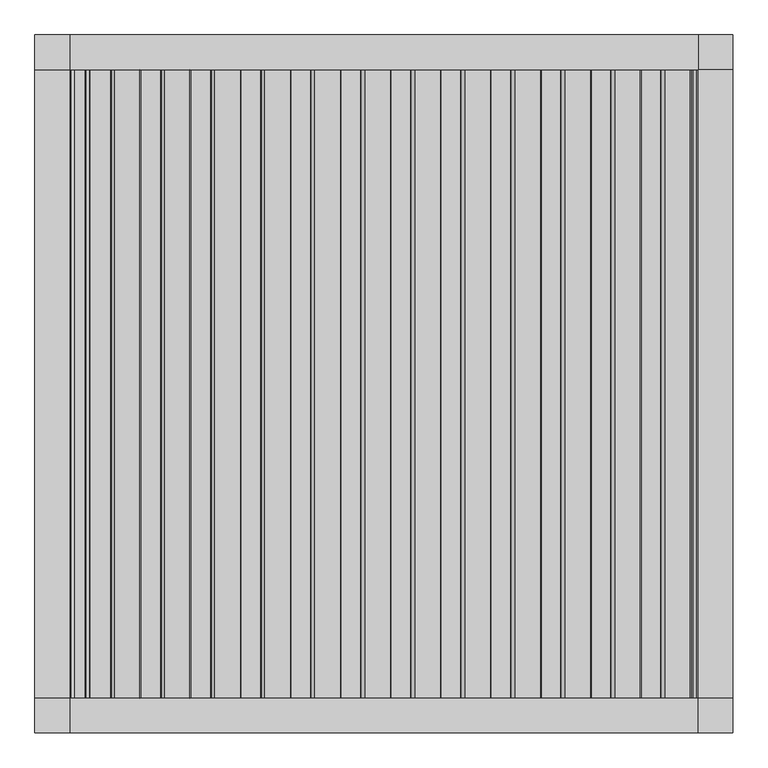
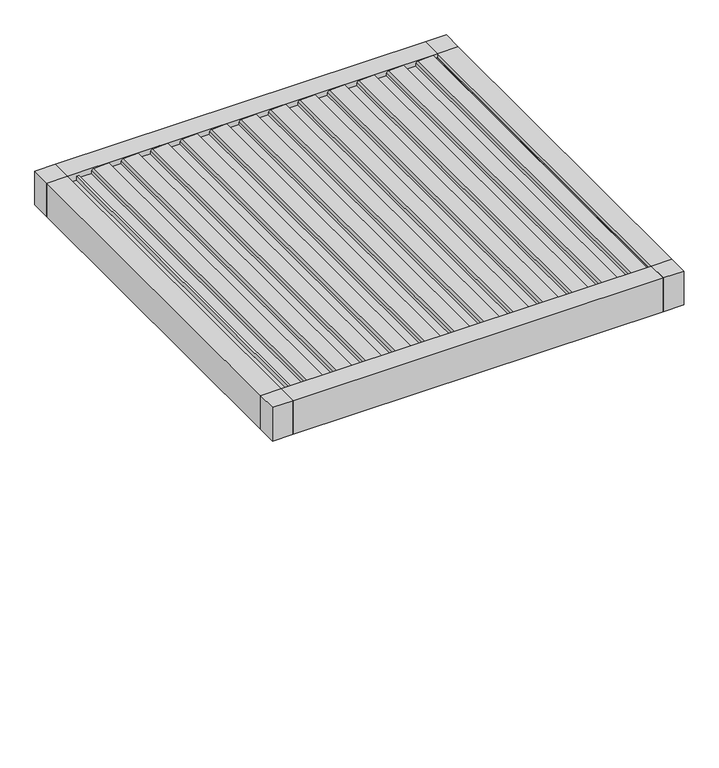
"""IFC4 building model written with IfcOpenShell, lengths in millimetres: proxy geometry, Renson_Camargue_Facade-Mounted_Patio covers : Renson_Camargue_Facade-Mounted_Patio covers."""

from ifc_helpers import new_model, si_unit, point, frame, frame_2d, origin, origin_with_axes, place, context, project, spatial, polyline, circle_curve, trimmed, segment, composite_curve, outline, extrude, source, transform, mapped, element, save


def generic_models_1957e080(model_context):
    return source(origin(), model_context, "Body", "SweptSolid", [
        extrude(outline(composite_curve([segment(polyline([(2458.35, 1073.7289238), (2486.01198, 1076.1490335), (2487.3970364, 1104.984284), (2506.8911096, 1101.5469529), (2501.6075693, 991.549838)]), True, "CONTINUOUS"), segment(trimmed(circle_curve(frame_2d((2486.6248435, 992.26951)), 15.0), [point((2501.6075693, 991.549838))], [point((2489.2295662, 977.4973937))], False, "CARTESIAN"), True, "CONTINUOUS"), segment(polyline([(2489.2295662, 977.4973937), (2470.0, 974.1067023), (2470.0, 886.3709263), (2487.0788237, 883.3594689), (2486.3450182, 868.0824984), (2458.35, 865.6332517), (2458.35, 1073.7289238)]), True, "CONTINUOUS")], self_intersect=False)), frame((0.0, -1350.0, 0.0), z_axis=(0.0, 1.0, 0.0), x_axis=(0.0, 0.0, 1.0)), (0.0, 0.0, 1.0), 2700.0),
        extrude(outline(composite_curve([segment(polyline([(2458.35, 858.7132078), (2486.01198, 861.1333174), (2487.3970364, 889.9685679), (2506.8911096, 886.5312368), (2501.6075693, 776.534122)]), True, "CONTINUOUS"), segment(trimmed(circle_curve(frame_2d((2486.6248435, 777.2537939)), 15.0), [point((2501.6075693, 776.534122))], [point((2489.2295662, 762.4816776))], False, "CARTESIAN"), True, "CONTINUOUS"), segment(polyline([(2489.2295662, 762.4816776), (2470.0, 759.0909863), (2470.0, 671.3552102), (2487.0788237, 668.3437528), (2486.3450182, 653.0667824), (2458.35, 650.6175356), (2458.35, 858.7132078)]), True, "CONTINUOUS")], self_intersect=False)), frame((0.0, -1350.0, 0.0), z_axis=(0.0, 1.0, 0.0), x_axis=(0.0, 0.0, 1.0)), (0.0, 0.0, 1.0), 2700.0),
        extrude(outline(composite_curve([segment(polyline([(2458.35, 643.6974917), (2486.01198, 646.1176014), (2487.3970364, 674.9528519), (2506.8911096, 671.5155208), (2501.6075693, 561.5184059)]), True, "CONTINUOUS"), segment(trimmed(circle_curve(frame_2d((2486.6248435, 562.2380779)), 15.0), [point((2501.6075693, 561.5184059))], [point((2489.2295662, 547.4659616))], False, "CARTESIAN"), True, "CONTINUOUS"), segment(polyline([(2489.2295662, 547.4659616), (2470.0, 544.0752702), (2470.0, 456.3394942), (2487.0788237, 453.3280368), (2486.3450182, 438.0510663), (2458.35, 435.6018196), (2458.35, 643.6974917)]), True, "CONTINUOUS")], self_intersect=False)), frame((0.0, -1350.0, 0.0), z_axis=(0.0, 1.0, 0.0), x_axis=(0.0, 0.0, 1.0)), (0.0, 0.0, 1.0), 2700.0),
        extrude(outline(composite_curve([segment(polyline([(2458.35, 428.6817757), (2486.01198, 431.1018854), (2487.3970364, 459.9371358), (2506.8911096, 456.4998047), (2501.6075693, 346.5026899)]), True, "CONTINUOUS"), segment(trimmed(circle_curve(frame_2d((2486.6248435, 347.2223618)), 15.0), [point((2501.6075693, 346.5026899))], [point((2489.2295662, 332.4502455))], False, "CARTESIAN"), True, "CONTINUOUS"), segment(polyline([(2489.2295662, 332.4502455), (2470.0, 329.0595542), (2470.0, 241.3237782), (2487.0788237, 238.3123207), (2486.3450182, 223.0353503), (2458.35, 220.5861035), (2458.35, 428.6817757)]), True, "CONTINUOUS")], self_intersect=False)), frame((0.0, -1350.0, 0.0), z_axis=(0.0, 1.0, 0.0), x_axis=(0.0, 0.0, 1.0)), (0.0, 0.0, 1.0), 2700.0),
        extrude(outline(composite_curve([segment(polyline([(2458.35, 213.6660597), (2486.01198, 216.0861693), (2487.3970364, 244.9214198), (2506.8911096, 241.4840887), (2501.6075693, 131.4869738)]), True, "CONTINUOUS"), segment(trimmed(circle_curve(frame_2d((2486.6248435, 132.2066458)), 15.0), [point((2501.6075693, 131.4869738))], [point((2489.2295662, 117.4345295))], False, "CARTESIAN"), True, "CONTINUOUS"), segment(polyline([(2489.2295662, 117.4345295), (2470.0, 114.0438381), (2470.0, 26.3080621), (2487.0788237, 23.2966047), (2486.3450182, 8.0196342), (2458.35, 5.5703875), (2458.35, 213.6660597)]), True, "CONTINUOUS")], self_intersect=False)), frame((0.0, -1350.0, 0.0), z_axis=(0.0, 1.0, 0.0), x_axis=(0.0, 0.0, 1.0)), (0.0, 0.0, 1.0), 2700.0),
        extrude(outline(composite_curve([segment(polyline([(2458.35, -1.3496564), (2486.01198, 1.0704533), (2487.3970364, 29.9057037), (2506.8911096, 26.4683726), (2501.6075693, -83.5287422)]), True, "CONTINUOUS"), segment(trimmed(circle_curve(frame_2d((2486.6248435, -82.8090703)), 15.0), [point((2501.6075693, -83.5287422))], [point((2489.2295662, -97.5811866))], False, "CARTESIAN"), True, "CONTINUOUS"), segment(polyline([(2489.2295662, -97.5811866), (2470.0, -100.9718779), (2470.0, -188.7076539), (2487.0788237, -191.7191114), (2486.3450182, -206.9960818), (2458.35, -209.4453286), (2458.35, -1.3496564)]), True, "CONTINUOUS")], self_intersect=False)), frame((0.0, -1350.0, 0.0), z_axis=(0.0, 1.0, 0.0), x_axis=(0.0, 0.0, 1.0)), (0.0, 0.0, 1.0), 2700.0),
        extrude(outline(composite_curve([segment(polyline([(2458.35, -216.3653724), (2486.01198, -213.9452628), (2487.3970364, -185.1100123), (2506.8911096, -188.5473434), (2501.6075693, -298.5444582)]), True, "CONTINUOUS"), segment(trimmed(circle_curve(frame_2d((2486.6248435, -297.8247863)), 15.0), [point((2501.6075693, -298.5444582))], [point((2489.2295662, -312.5969026))], False, "CARTESIAN"), True, "CONTINUOUS"), segment(polyline([(2489.2295662, -312.5969026), (2470.0, -315.987594), (2470.0, -403.72337), (2487.0788237, -406.7348274), (2486.3450182, -422.0117979), (2458.35, -424.4610446), (2458.35, -216.3653724)]), True, "CONTINUOUS")], self_intersect=False)), frame((0.0, -1350.0, 0.0), z_axis=(0.0, 1.0, 0.0), x_axis=(0.0, 0.0, 1.0)), (0.0, 0.0, 1.0), 2700.0),
        extrude(outline(composite_curve([segment(polyline([(2458.35, -431.3810885), (2486.01198, -428.9609788), (2487.3970364, -400.1257284), (2506.8911096, -403.5630594), (2501.6075693, -513.5601743)]), True, "CONTINUOUS"), segment(trimmed(circle_curve(frame_2d((2486.6248435, -512.8405024)), 15.0), [point((2501.6075693, -513.5601743))], [point((2489.2295662, -527.6126187))], False, "CARTESIAN"), True, "CONTINUOUS"), segment(polyline([(2489.2295662, -527.6126187), (2470.0, -531.00331), (2470.0, -618.739086), (2487.0788237, -621.7505434), (2486.3450182, -637.0275139), (2458.35, -639.4767606), (2458.35, -431.3810885)]), True, "CONTINUOUS")], self_intersect=False)), frame((0.0, -1350.0, 0.0), z_axis=(0.0, 1.0, 0.0), x_axis=(0.0, 0.0, 1.0)), (0.0, 0.0, 1.0), 2700.0),
        extrude(outline(composite_curve([segment(polyline([(2458.35, -646.3968045), (2486.01198, -643.9766949), (2487.3970364, -615.1414444), (2506.8911096, -618.5787755), (2501.6075693, -728.5758903)]), True, "CONTINUOUS"), segment(trimmed(circle_curve(frame_2d((2486.6248435, -727.8562184)), 15.0), [point((2501.6075693, -728.5758903))], [point((2489.2295662, -742.6283347))], False, "CARTESIAN"), True, "CONTINUOUS"), segment(polyline([(2489.2295662, -742.6283347), (2470.0, -746.019026), (2470.0, -833.7548021), (2487.0788237, -836.7662595), (2486.3450182, -852.04323), (2458.35, -854.4924767), (2458.35, -646.3968045)]), True, "CONTINUOUS")], self_intersect=False)), frame((0.0, -1350.0, 0.0), z_axis=(0.0, 1.0, 0.0), x_axis=(0.0, 0.0, 1.0)), (0.0, 0.0, 1.0), 2700.0),
        extrude(outline(composite_curve([segment(polyline([(2458.35, -861.4125206), (2486.01198, -858.9924109), (2487.3970364, -830.1571605), (2506.8911096, -833.5944915), (2501.6075693, -943.5916064)]), True, "CONTINUOUS"), segment(trimmed(circle_curve(frame_2d((2486.6248435, -942.8719345)), 15.0), [point((2501.6075693, -943.5916064))], [point((2489.2295662, -957.6440508))], False, "CARTESIAN"), True, "CONTINUOUS"), segment(polyline([(2489.2295662, -957.6440508), (2470.0, -961.0347421), (2470.0, -1048.7705181), (2487.0788237, -1051.7819755), (2486.3450182, -1067.058946), (2458.35, -1069.5081927), (2458.35, -861.4125206)]), True, "CONTINUOUS")], self_intersect=False)), frame((0.0, -1350.0, 0.0), z_axis=(0.0, 1.0, 0.0), x_axis=(0.0, 0.0, 1.0)), (0.0, 0.0, 1.0), 2700.0),
        extrude(outline(composite_curve([segment(polyline([(2458.35, 1288.7446399), (2486.01198, 1291.1647495), (2487.3970364, 1320.0), (2506.8911096, 1316.5626689), (2501.6075693, 1206.5655541)]), True, "CONTINUOUS"), segment(trimmed(circle_curve(frame_2d((2486.6248435, 1207.285226)), 15.0), [point((2501.6075693, 1206.5655541))], [point((2489.2295662, 1192.5131097))], False, "CARTESIAN"), True, "CONTINUOUS"), segment(polyline([(2489.2295662, 1192.5131097), (2470.0, 1189.1224184), (2470.0, 1101.3866423), (2487.0788237, 1098.3751849), (2486.3450182, 1083.0982144), (2458.35, 1080.6489677), (2458.35, 1288.7446399)]), True, "CONTINUOUS")], self_intersect=False)), frame((0.0, -1350.0, 0.0), z_axis=(0.0, 1.0, 0.0), x_axis=(0.0, 0.0, 1.0)), (0.0, 0.0, 1.0), 2700.0),
        extrude(outline(composite_curve([segment(polyline([(2458.35, -1076.4282366), (2486.01198, -1074.008127), (2487.3970364, -1045.1728765), (2506.8911096, -1048.6102076), (2501.6075693, -1158.6073224)]), True, "CONTINUOUS"), segment(trimmed(circle_curve(frame_2d((2486.6248435, -1157.8876505)), 15.0), [point((2501.6075693, -1158.6073224))], [point((2489.2295662, -1172.6597668))], False, "CARTESIAN"), True, "CONTINUOUS"), segment(polyline([(2489.2295662, -1172.6597668), (2470.0, -1176.0504581), (2470.0, -1263.7862342), (2487.0788237, -1266.7976916), (2486.3450182, -1282.0746621), (2458.35, -1284.5239088), (2458.35, -1076.4282366)]), True, "CONTINUOUS")], self_intersect=False)), frame((0.0, -1350.0, 0.0), z_axis=(0.0, 1.0, 0.0), x_axis=(0.0, 0.0, 1.0)), (0.0, 0.0, 1.0), 2700.0),
        extrude(outline(polyline([(-1350.0, 1500.0), (-1350.0, 1350.0), (-1500.0, 1350.0), (-1500.0, 1500.0), (-1350.0, 1500.0)])), frame((0.0, 0.0, 2250.0), z_axis=(0.0, 0.0, 1.0), x_axis=(1.0, 0.0, 0.0)), (0.0, 0.0, 1.0), 260.0),
        extrude(outline(polyline([(-1350.0, -1500.0), (-1500.0, -1500.0), (-1500.0, -1350.0), (-1350.0, -1350.0), (-1350.0, -1500.0)])), frame((0.0, 0.0, 2250.0), z_axis=(0.0, 0.0, 1.0), x_axis=(1.0, 0.0, 0.0)), (0.0, 0.0, 1.0), 260.0),
        extrude(outline(polyline([(1500.0, -1500.0), (1350.0, -1500.0), (1350.0, -1350.0), (1500.0, -1350.0), (1500.0, -1500.0)])), frame((0.0, 0.0, 2250.0), z_axis=(0.0, 0.0, 1.0), x_axis=(1.0, 0.0, 0.0)), (0.0, 0.0, 1.0), 260.0),
        extrude(outline(polyline([(2441.6559373, -1350.0), (2441.6559373, -1290.0), (2455.6555802, -1286.2487113), (2455.6555802, -1329.5940945), (2471.400763, -1345.0), (2479.2449277, -1345.0), (2479.6823598, -1350.0), (2441.6559373, -1350.0)])), frame((0.0, -1350.0, 0.0), z_axis=(0.0, 1.0, 0.0), x_axis=(0.0, 0.0, 1.0)), (0.0, 0.0, 1.0), 2700.0),
        extrude(outline(polyline([(-1350.0, -1350.0), (-1500.0, -1350.0), (-1500.0, 1350.0), (-1350.0, 1350.0), (-1350.0, -1350.0)])), frame((0.0, 0.0, 2250.0), z_axis=(0.0, 0.0, 1.0), x_axis=(1.0, 0.0, 0.0)), (0.0, 0.0, 1.0), 260.0),
        extrude(outline(polyline([(2510.0, 1500.0), (2510.0, 1350.0), (2479.6904658, 1350.0), (2479.2449277, 1345.0), (2471.400763, 1345.0), (2455.6555802, 1329.2544156), (2455.6555802, 1319.9090324), (2441.6559373, 1323.6603211), (2441.6559373, 1350.0), (2250.0, 1350.0), (2250.0, 1500.0), (2510.0, 1500.0)])), frame((0.0, -1350.0, 0.0), z_axis=(0.0, 1.0, 0.0), x_axis=(0.0, 0.0, 1.0)), (0.0, 0.0, 1.0), 2700.0),
        extrude(outline(polyline([(-1350.0, 2510.0), (-1350.0, 2322.0), (-1280.0000001, 2322.0), (-1280.0000001, 2250.0), (-1500.0, 2250.0), (-1500.0, 2510.0), (-1350.0, 2510.0)])), frame((-1350.0, 0.0, 0.0), z_axis=(1.0, 0.0, 0.0), x_axis=(0.0, 1.0, 0.0)), (0.0, 0.0, 1.0), 2700.0),
        extrude(outline(polyline([(1500.0, 2250.0), (1280.0000001, 2250.0), (1280.0000001, 2322.0), (1350.0, 2322.0), (1350.0, 2510.0), (1500.0, 2510.0), (1500.0, 2250.0)])), frame((-1350.0, 0.0, 0.0), z_axis=(1.0, 0.0, 0.0), x_axis=(0.0, 1.0, 0.0)), (0.0, 0.0, 1.0), 2700.0),
        extrude(outline(polyline([(1500.0, 1500.0), (1500.0, 1350.0), (1350.0, 1350.0), (1350.0, 1500.0), (1500.0, 1500.0)])), origin_with_axes(), (0.0, 0.0, 1.0), 2510.0),
    ])


if __name__ == "__main__":
    model = new_model("IFC4")
    model_context = context("Model", 3, world=origin())
    ifc_project = project(units=[si_unit("LENGTHUNIT", "METRE", prefix="MILLI")], contexts=[model_context])
    site = spatial("IfcSite", under=ifc_project)
    building = spatial("IfcBuilding", under=site)
    placement = place(None, origin())
    generic_models_shape = generic_models_1957e080(model_context)
    element("IfcBuildingElementProxy", 1, Name="Renson_Camargue_Facade-Mounted_Patio covers : Renson_Camargue_Facade-Mounted_Patio covers", ObjectType="Renson_Camargue_Facade-Mounted_Patio covers : Renson_Camargue_Facade-Mounted_Patio covers", at=placement, inside=building, context=model_context, shape_type="MappedRepresentation", body=[
        mapped(generic_models_shape, transform((0.0, 0.0, 0.0), x_axis=(1.0, 0.0, 0.0), y_axis=(0.0, 1.0, 0.0), z_axis=(0.0, 0.0, 1.0))),
    ])
    save(model, "model.ifc")
